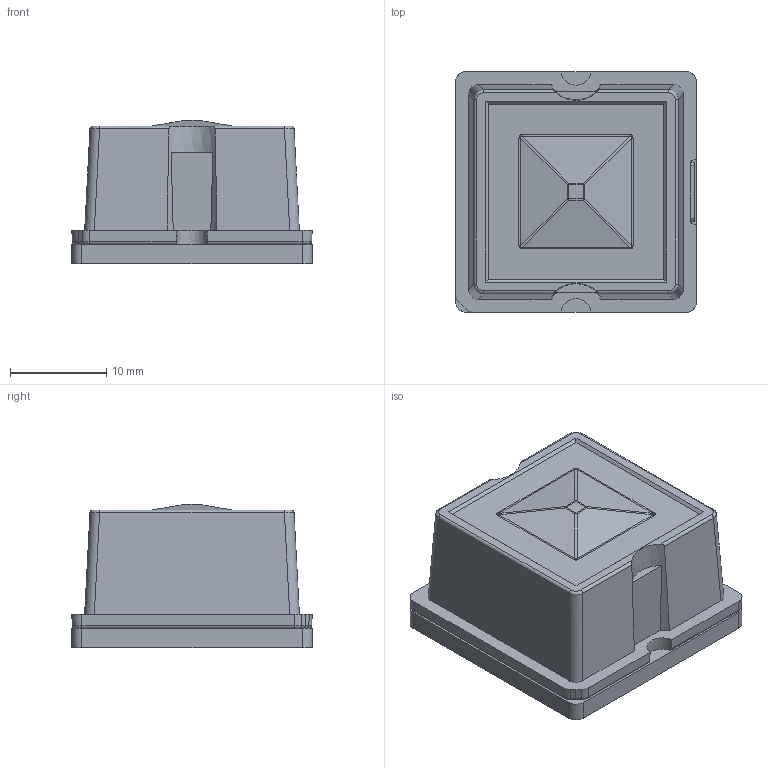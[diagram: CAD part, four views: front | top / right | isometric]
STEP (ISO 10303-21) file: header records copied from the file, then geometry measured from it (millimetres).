
FILE_DESCRIPTION(/* description */ (''),/* implementation_level */ '2;1');
FILE_NAME(/* name */ 'C:/Users/elena/Desktop/Cubetto.step',/* time_stamp */ '2020-07-15T14:14:42+02:00',/* author */ (''),/* organization */ (''),/* preprocessor_version */ 'ST-DEVELOPER v18.1',/* originating_system */ 'Autodesk Translation Framework v9.3.0.1241',/* authorisation */ '');
FILE_SCHEMA (('AUTOMOTIVE_DESIGN { 1 0 10303 214 3 1 1 }'));
Length unit declared in the file: millimetre
Products named in the file (1): (Unsaved)
Bounding box: 25 x 25 x 14.9 mm (x, y, z)
Volume: 6821.7 mm3; surface area: 4120.2 mm2
Topology: 1 solids, 3 shells, 397 faces, 982 edges, 587 vertices
Faces by surface type: cylinder 126, plane 122, bspline 105, sphere 28, cone 12, torus 4
Entity records: 17990 total; most frequent: CARTESIAN_POINT 9085, ORIENTED_EDGE 1940, DIRECTION 1731, EDGE_CURVE 970, AXIS2_PLACEMENT_3D 668, VERTEX_POINT 587, EDGE_LOOP 407, FACE_OUTER_BOUND 397
